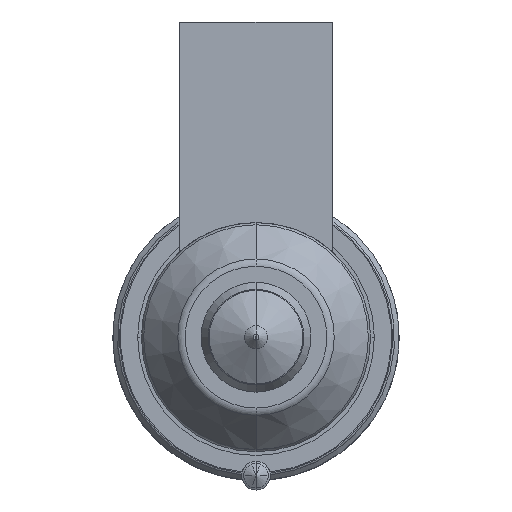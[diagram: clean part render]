
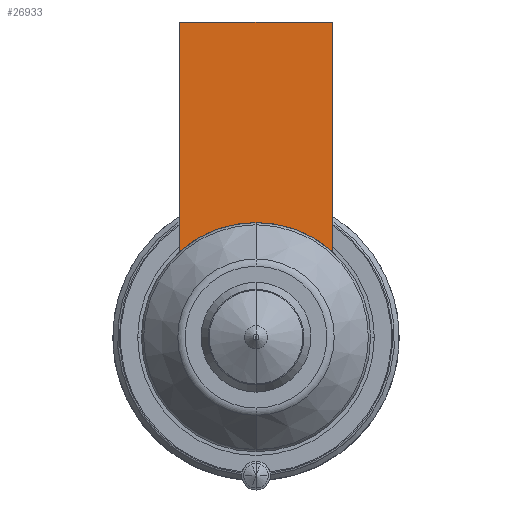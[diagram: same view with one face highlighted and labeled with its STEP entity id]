
A CAD part, front view. The second image highlights one B-rep face of the part: STEP entity #26933.
In plain terms, the highlighted planar face has unit normal (0, -1, 0).
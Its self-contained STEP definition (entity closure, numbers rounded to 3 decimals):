
#26108=DIRECTION('',(0.,0.,-1.));
#26109=VECTOR('',#26108,24.056);
#26110=CARTESIAN_POINT('',(-8.,-56.,33.));
#26111=LINE('',#26110,#26109);
#26123=CARTESIAN_POINT('',(0.,-56.,0.));
#26124=DIRECTION('',(0.,-1.,0.));
#26125=DIRECTION('',(0.,0.,1.));
#26126=AXIS2_PLACEMENT_3D('',#26123,#26124,#26125);
#26131=DIRECTION('',(1.,0.,0.));
#26132=VECTOR('',#26131,16.);
#26133=CARTESIAN_POINT('',(-8.,-56.,33.));
#26134=LINE('',#26133,#26132);
#26138=CARTESIAN_POINT('',(0.,-56.,0.));
#26139=DIRECTION('',(0.,-1.,0.));
#26140=DIRECTION('',(0.667,0.,0.745));
#26141=AXIS2_PLACEMENT_3D('',#26138,#26139,#26140);
#26293=DIRECTION('',(0.,0.,-1.));
#26294=VECTOR('',#26293,24.056);
#26295=CARTESIAN_POINT('',(8.,-56.,33.));
#26296=LINE('',#26295,#26294);
#26848=CARTESIAN_POINT('',(-8.,-56.,33.));
#26849=VERTEX_POINT('',#26848);
#26854=CARTESIAN_POINT('',(8.,-56.,33.));
#26855=VERTEX_POINT('',#26854);
#26857=CARTESIAN_POINT('',(-8.,-56.,8.944));
#26859=VERTEX_POINT('',#26857);
#26861=CARTESIAN_POINT('',(8.,-56.,8.944));
#26863=VERTEX_POINT('',#26861);
#26866=CARTESIAN_POINT('',(0.,-56.,12.));
#26867=VERTEX_POINT('',#26866);
#26918=CARTESIAN_POINT('',(-8.,-56.,33.));
#26919=DIRECTION('',(0.,-1.,0.));
#26920=DIRECTION('',(0.,0.,-1.));
#26921=AXIS2_PLACEMENT_3D('',#26918,#26919,#26920);
#26922=PLANE('',#26921);
#26923=ORIENTED_EDGE('',*,*,#26897,.T.);
#26924=ORIENTED_EDGE('',*,*,#26886,.F.);
#26926=ORIENTED_EDGE('',*,*,#26925,.T.);
#26928=ORIENTED_EDGE('',*,*,#26927,.T.);
#26930=ORIENTED_EDGE('',*,*,#26929,.T.);
#26931=EDGE_LOOP('',(#26923,#26924,#26926,#26928,#26930));
#26932=FACE_OUTER_BOUND('',#26931,.F.);
#26933=ADVANCED_FACE('',(#26932),#26922,.T.);
#26127=CIRCLE('',#26126,12.);
#26142=CIRCLE('',#26141,12.);
#26886=EDGE_CURVE('',#26849,#26859,#26111,.T.);
#26897=EDGE_CURVE('',#26867,#26859,#26127,.T.);
#26925=EDGE_CURVE('',#26849,#26855,#26134,.T.);
#26927=EDGE_CURVE('',#26855,#26863,#26296,.T.);
#26929=EDGE_CURVE('',#26863,#26867,#26142,.T.);
